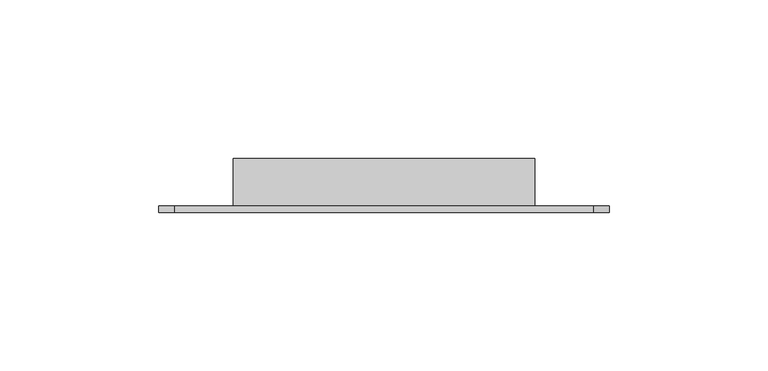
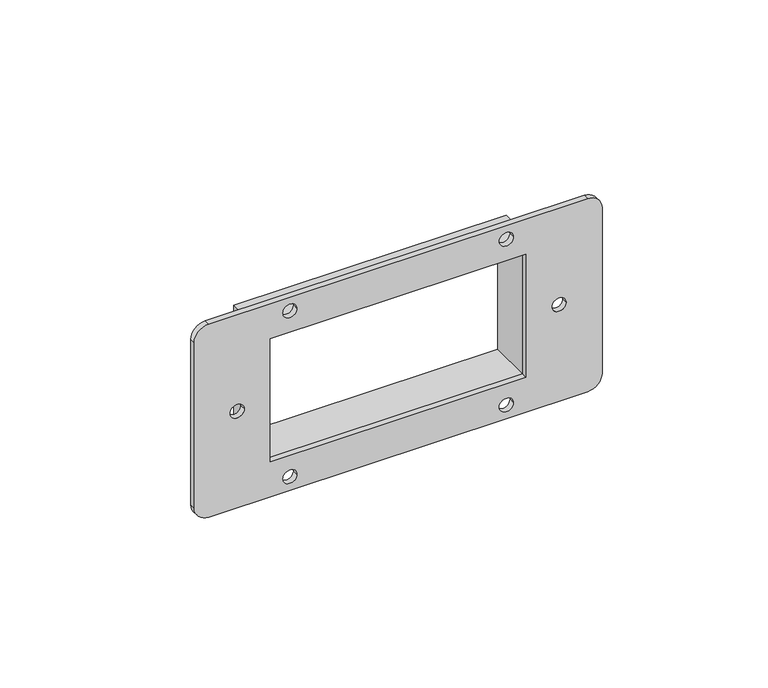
"""IFC4 building model written with IfcOpenShell, lengths in millimetres: proxy geometry, КНС_КаркасыДляМонтажаЭУИBravaВКоробкиPDD-N120_DKC : 4 модуля."""

import ifcopenshell
import ifcopenshell.guid

model = None  # the IFC model being written
_history = None  # IfcOwnerHistory: only IFC2X3 demands one
_inside = {}  # id of a spatial element -> (the spatial element, [elements in it])
_under = {}  # id of a project, library or spatial element -> (it, [spatial elements below it])
_declared = {}  # id of a project -> (the project, [libraries it declares])
_typed = {}  # id of a type object -> (the type object, [elements of that type])
_made_of = {}  # id of a material, layer set ... -> (it, [elements and type objects made of it])


def new_model(schema):
    """Start an empty IFC model of exactly this schema.

    Asked for "IFC4X3", IfcOpenShell would pick the latest addendum, in which some entities
    have other attributes; the version numbers below select the first issue.
    IFC2X3 requires an IfcOwnerHistory on every rooted entity: one is made here for all.
    """
    global model, _history
    if schema == "IFC4X3":
        model = ifcopenshell.file(schema_version=(4, 3, 0, 0))
    else:
        model = ifcopenshell.file(schema=schema)
    _inside.clear()
    _under.clear()
    _declared.clear()
    _typed.clear()
    _made_of.clear()
    _history = None
    if model.schema == "IFC2X3":
        org = make("IfcOrganization", Name="unknown")
        user = make(
            "IfcPersonAndOrganization",
            ThePerson=make("IfcPerson", FamilyName="unknown"),
            TheOrganization=org,
        )
        app = make(
            "IfcApplication",
            ApplicationDeveloper=org,
            Version="unknown",
            ApplicationFullName="unknown",
            ApplicationIdentifier="unknown",
        )
        _history = make(
            "IfcOwnerHistory",
            OwningUser=user,
            OwningApplication=app,
            ChangeAction="ADDED",
            CreationDate=0,
        )
    return model


def make(cls, **values):
    """One entity of the class cls with the attributes given. An attribute that is None is left unset."""
    return model.create_entity(
        cls, **{name: value for name, value in values.items() if value is not None}
    )


def rooted(cls, **values):
    """An entity with a GlobalId (a new one), such as an element, a storey or a relation."""
    return make(cls, GlobalId=ifcopenshell.guid.new(), OwnerHistory=_history, **values)


def si_unit(unit_type, name, prefix=None):
    """IfcSIUnit, for example si_unit("LENGTHUNIT", "METRE", prefix="MILLI")."""
    return make("IfcSIUnit", UnitType=unit_type, Prefix=prefix, Name=name)


def assignment(units):
    """IfcUnitAssignment: the units of a project."""
    return None if units is None else make("IfcUnitAssignment", Units=units)


def point(xyz):
    """IfcCartesianPoint."""
    return None if xyz is None else make("IfcCartesianPoint", Coordinates=xyz)


def direction(xyz):
    """IfcDirection."""
    return None if xyz is None else make("IfcDirection", DirectionRatios=xyz)


def frame(location, z_axis=None, x_axis=None):
    """IfcAxis2Placement3D, a coordinate frame: its origin and axes. An axis left out is left unset."""
    return make(
        "IfcAxis2Placement3D",
        Location=point(location),
        Axis=direction(z_axis),
        RefDirection=direction(x_axis),
    )


def frame_2d(location, x_axis=None):
    """IfcAxis2Placement2D, a coordinate frame in the plane: its origin and x axis."""
    return make(
        "IfcAxis2Placement2D", Location=point(location), RefDirection=direction(x_axis)
    )


def origin():
    """The frame at (0, 0, 0) with its axes left unset."""
    return frame((0.0, 0.0, 0.0))


def place(relative_to, where):
    """IfcLocalPlacement: puts the frame where relative to a parent placement (None: the world)."""
    return make(
        "IfcLocalPlacement", PlacementRelTo=relative_to, RelativePlacement=where
    )


def context(
    kind, dimensions, precision=None, world=None, true_north=None, identifier=None
):
    """IfcGeometricRepresentationContext, for example the 3D "Model" context."""
    return make(
        "IfcGeometricRepresentationContext",
        ContextIdentifier=identifier,
        ContextType=kind,
        CoordinateSpaceDimension=dimensions,
        Precision=precision,
        WorldCoordinateSystem=world,
        TrueNorth=true_north,
    )


def project(units=None, contexts=None):
    """IfcProject with its units and contexts."""
    return rooted(
        "IfcProject",
        Name="project",
        RepresentationContexts=contexts,
        UnitsInContext=assignment(units),
    )


def spatial(cls, under=None, at=None, **own):
    """A site, building, storey or space (cls), placed at a placement, below another one or the project."""
    s = rooted(cls, ObjectPlacement=at, **own)
    if under is not None:
        _under.setdefault(under.id(), (under, []))[1].append(s)
    return s


def polyline(points):
    """IfcPolyline through the points."""
    return make("IfcPolyline", Points=[point(p) for p in points])


def circle_curve(where, radius):
    """IfcCircle in the frame where."""
    return make("IfcCircle", Position=where, Radius=radius)


def trimmed(basis, trim1, trim2, sense, master):
    """IfcTrimmedCurve: the piece of a basis curve between two trims."""
    return make(
        "IfcTrimmedCurve",
        BasisCurve=basis,
        Trim1=trim1,
        Trim2=trim2,
        SenseAgreement=sense,
        MasterRepresentation=master,
    )


def segment(curve, same_sense, transition):
    """IfcCompositeCurveSegment."""
    return make(
        "IfcCompositeCurveSegment",
        Transition=transition,
        SameSense=same_sense,
        ParentCurve=curve,
    )


def composite_curve(segments, self_intersect=None):
    """IfcCompositeCurve: segments joined end to end."""
    return make("IfcCompositeCurve", Segments=segments, SelfIntersect=self_intersect)


def outline(outer, holes=None, kind="AREA"):
    """IfcArbitraryClosedProfileDef: a profile drawn as a closed curve; with holes, ...WithVoids."""
    if holes is None:
        return make("IfcArbitraryClosedProfileDef", ProfileType=kind, OuterCurve=outer)
    return make(
        "IfcArbitraryProfileDefWithVoids",
        ProfileType=kind,
        OuterCurve=outer,
        InnerCurves=holes,
    )


def extrude(swept, where, along, depth):
    """IfcExtrudedAreaSolid: the profile swept, set in the frame where, extruded along a direction by depth."""
    return make(
        "IfcExtrudedAreaSolid",
        SweptArea=swept,
        Position=where,
        ExtrudedDirection=direction(along),
        Depth=depth,
    )


def shape(context_of_items, identifier, shape_type, items):
    """IfcShapeRepresentation: the items that make up one representation, for example the "Body"."""
    return make(
        "IfcShapeRepresentation",
        ContextOfItems=context_of_items,
        RepresentationIdentifier=identifier,
        RepresentationType=shape_type,
        Items=items,
    )


def source(mapping_origin, context_of_items, identifier, shape_type, items):
    """IfcRepresentationMap: a shape defined once, which mapped items show again and again."""
    return make(
        "IfcRepresentationMap",
        MappingOrigin=mapping_origin,
        MappedRepresentation=shape(context_of_items, identifier, shape_type, items),
    )


def transform(
    local_origin,
    x_axis=None,
    y_axis=None,
    z_axis=None,
    scale=None,
    scale2=None,
    scale3=None,
    uniform=True,
):
    """IfcCartesianTransformationOperator3D, or its non-uniform kind. x_axis, y_axis, z_axis: its Axis1, 2, 3."""
    if uniform:
        return make(
            "IfcCartesianTransformationOperator3D",
            Axis1=direction(x_axis),
            Axis2=direction(y_axis),
            LocalOrigin=point(local_origin),
            Scale=scale,
            Axis3=direction(z_axis),
        )
    return make(
        "IfcCartesianTransformationOperator3DnonUniform",
        Axis1=direction(x_axis),
        Axis2=direction(y_axis),
        LocalOrigin=point(local_origin),
        Scale=scale,
        Axis3=direction(z_axis),
        Scale2=scale2,
        Scale3=scale3,
    )


def mapped(mapping_source, mapping_target):
    """IfcMappedItem: shows the shape of a source again, moved by a transform."""
    return make(
        "IfcMappedItem", MappingSource=mapping_source, MappingTarget=mapping_target
    )


def made_of(thing, what):
    """Note that an element or type object is made of a material, layer set ...; save() writes the relation."""
    if what is not None:
        _made_of.setdefault(what.id(), (what, []))[1].append(thing)
    return thing


def element(
    cls,
    number,
    at=None,
    inside=None,
    cuts=None,
    type_object=None,
    material=None,
    context=None,
    identifier="Body",
    shape_type=None,
    held_by="IfcProductDefinitionShape",
    body=None,
    shapes=None,
    **own,
):
    """One element of the class cls, such as IfcWall. Its Tag is "e" and its number.

    at: its placement. inside: the storey or other place that contains it. cuts: it is an
    opening in that element (IfcRelVoidsElement). A single representation is given by context,
    identifier, shape_type and body (its items); several are given by shapes. held_by: the class
    of the entity that holds the representations. save() writes the other relations.
    """
    e = rooted(cls, Tag="e%d" % number, ObjectPlacement=at, **own)
    if body is not None:
        shapes = [shape(context, identifier, shape_type, body)]
    if shapes is not None:
        e.Representation = make(held_by, Representations=shapes)
    if inside is not None:
        _inside.setdefault(inside.id(), (inside, []))[1].append(e)
    if cuts is not None:
        rooted(
            "IfcRelVoidsElement", RelatingBuildingElement=cuts, RelatedOpeningElement=e
        )
    if type_object is not None:
        _typed.setdefault(type_object.id(), (type_object, []))[1].append(e)
    return made_of(e, material)


def aggregate(whole, parts):
    """IfcRelAggregates: a whole, such as a stair, and the parts it consists of."""
    return rooted("IfcRelAggregates", RelatingObject=whole, RelatedObjects=parts)


def save(model, path):
    """Write the relations noted so far, then the file.

    IfcRelAggregates (storeys below a building ...), IfcRelContainedInSpatialStructure (elements
    in a storey), IfcRelDefinesByType, IfcRelAssociatesMaterial and IfcRelDeclares: one each for
    every whole, place, type object, material and project.
    """
    for whole, parts in _under.values():
        aggregate(whole, parts)
    for where, things in _inside.values():
        rooted(
            "IfcRelContainedInSpatialStructure",
            RelatedElements=things,
            RelatingStructure=where,
        )
    for kind, things in _typed.values():
        rooted("IfcRelDefinesByType", RelatedObjects=things, RelatingType=kind)
    for what, things in _made_of.values():
        rooted("IfcRelAssociatesMaterial", RelatedObjects=things, RelatingMaterial=what)
    for by, libraries in _declared.values():
        rooted("IfcRelDeclares", RelatingContext=by, RelatedDefinitions=libraries)
    model.write(path)


def electrical_fixtures_8efbb15c(model_context):
    return source(origin(), model_context, "Body", "SweptSolid", [
        extrude(outline(composite_curve([segment(polyline([(35.45, 65.95), (35.45, -65.95)]), True, "CONTINUOUS"), segment(trimmed(circle_curve(frame_2d((30.45, -65.95)), 5.0), [point((35.45, -65.95))], [point((30.45, -70.95))], False, "CARTESIAN"), True, "CONTINUOUS"), segment(polyline([(30.45, -70.95), (-30.45, -70.95)]), True, "CONTINUOUS"), segment(trimmed(circle_curve(frame_2d((-30.45, -65.95)), 5.0), [point((-30.45, -70.95))], [point((-35.45, -65.95))], False, "CARTESIAN"), True, "CONTINUOUS"), segment(polyline([(-35.45, -65.95), (-35.45, 65.95)]), True, "CONTINUOUS"), segment(trimmed(circle_curve(frame_2d((-30.45, 65.95)), 5.0), [point((-35.45, 65.95))], [point((-30.45, 70.95))], False, "CARTESIAN"), True, "CONTINUOUS"), segment(polyline([(-30.45, 70.95), (30.45, 70.95)]), True, "CONTINUOUS"), segment(trimmed(circle_curve(frame_2d((30.45, 65.95)), 5.0), [point((30.45, 70.95))], [point((35.45, 65.95))], False, "CARTESIAN"), True, "CONTINUOUS")], self_intersect=False), holes=[composite_curve([segment(trimmed(circle_curve(frame_2d((-30.4923961, -37.6558622)), 2.4387876), [point((-30.4923961, -40.0946498))], [point((-30.4923961, -35.2170746))], True, "CARTESIAN"), True, "CONTINUOUS"), segment(trimmed(circle_curve(frame_2d((-30.4923961, -37.6558622)), 2.4387876), [point((-30.4923961, -35.2170746))], [point((-30.4923961, -40.0946498))], True, "CARTESIAN"), True, "CONTINUOUS")], self_intersect=False), composite_curve([segment(trimmed(circle_curve(frame_2d((0.0, 55.9923961)), 2.4387876), [point((0.0, 53.5536085))], [point((0.0, 58.4311836))], True, "CARTESIAN"), True, "CONTINUOUS"), segment(trimmed(circle_curve(frame_2d((0.0, 55.9923961)), 2.4387876), [point((0.0, 58.4311836))], [point((0.0, 53.5536085))], True, "CARTESIAN"), True, "CONTINUOUS")], self_intersect=False), polyline([(22.6231857, 44.45), (-22.6231857, 44.45), (-22.6231857, -44.45), (22.6231857, -44.45), (22.6231857, 44.45)]), composite_curve([segment(trimmed(circle_curve(frame_2d((0.0, -55.9923961)), 2.4387876), [point((0.0, -53.5536085))], [point((0.0, -58.4311836))], True, "CARTESIAN"), True, "CONTINUOUS"), segment(trimmed(circle_curve(frame_2d((0.0, -55.9923961)), 2.4387876), [point((0.0, -58.4311836))], [point((0.0, -53.5536085))], True, "CARTESIAN"), True, "CONTINUOUS")], self_intersect=False), composite_curve([segment(trimmed(circle_curve(frame_2d((-30.4923961, 37.6558622)), 2.4387876), [point((-30.4923961, 40.0946498))], [point((-30.4923961, 35.2170746))], True, "CARTESIAN"), True, "CONTINUOUS"), segment(trimmed(circle_curve(frame_2d((-30.4923961, 37.6558622)), 2.4387876), [point((-30.4923961, 35.2170746))], [point((-30.4923961, 40.0946498))], True, "CARTESIAN"), True, "CONTINUOUS")], self_intersect=False), composite_curve([segment(trimmed(circle_curve(frame_2d((30.4923961, -37.6558622)), 2.4387876), [point((30.4923961, -35.2170746))], [point((30.4923961, -40.0946498))], True, "CARTESIAN"), True, "CONTINUOUS"), segment(trimmed(circle_curve(frame_2d((30.4923961, -37.6558622)), 2.4387876), [point((30.4923961, -40.0946498))], [point((30.4923961, -35.2170746))], True, "CARTESIAN"), True, "CONTINUOUS")], self_intersect=False), composite_curve([segment(trimmed(circle_curve(frame_2d((30.4923961, 37.6558622)), 2.4387876), [point((30.4923961, 40.0946498))], [point((30.4923961, 35.2170746))], True, "CARTESIAN"), True, "CONTINUOUS"), segment(trimmed(circle_curve(frame_2d((30.4923961, 37.6558622)), 2.4387876), [point((30.4923961, 35.2170746))], [point((30.4923961, 40.0946498))], True, "CARTESIAN"), True, "CONTINUOUS")], self_intersect=False)]), frame((0.0, -2.0, 0.0), z_axis=(0.0, 1.0, 0.0), x_axis=(0.0, 0.0, 1.0)), (0.0, 0.0, 1.0), 2.0),
        extrude(outline(polyline([(25.6231857, 47.45), (25.6231857, -47.45), (-25.6231857, -47.45), (-25.6231857, 47.45), (25.6231857, 47.45)]), holes=[polyline([(22.6231857, 44.45), (-22.6231857, 44.45), (-22.6231857, -44.45), (22.6231857, -44.45), (22.6231857, 44.45)])]), frame((0.0, 0.0, 0.0), z_axis=(0.0, 1.0, 0.0), x_axis=(0.0, 0.0, 1.0)), (0.0, 0.0, 1.0), 15.0),
    ])


if __name__ == "__main__":
    model = new_model("IFC4")
    model_context = context("Model", 3, world=origin())
    ifc_project = project(units=[si_unit("LENGTHUNIT", "METRE", prefix="MILLI")], contexts=[model_context])
    site = spatial("IfcSite", under=ifc_project)
    building = spatial("IfcBuilding", under=site)
    placement = place(None, origin())
    electrical_fixtures_shape = electrical_fixtures_8efbb15c(model_context)
    element("IfcBuildingElementProxy", 1, Name="КНС_КаркасыДляМонтажаЭУИBravaВКоробкиPDD-N120_DKC : 4 модуля", ObjectType="КНС_КаркасыДляМонтажаЭУИBravaВКоробкиPDD-N120_DKC : 4 модуля", at=placement, inside=building, context=model_context, shape_type="MappedRepresentation", body=[
        mapped(electrical_fixtures_shape, transform((0.0, 0.0, 0.0), x_axis=(1.0, 0.0, 0.0), y_axis=(0.0, 1.0, 0.0), z_axis=(0.0, 0.0, 1.0))),
    ])
    save(model, "model.ifc")
